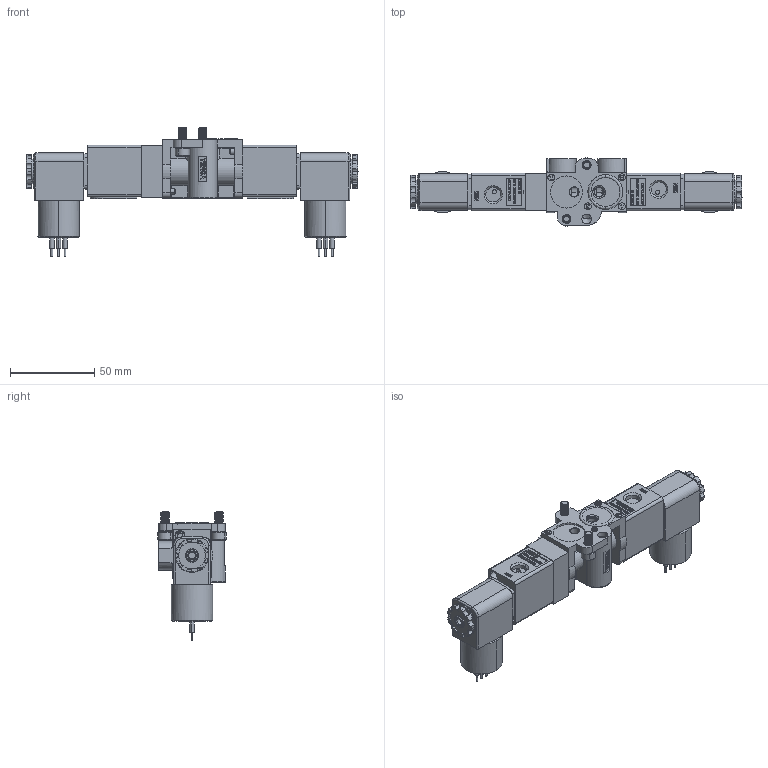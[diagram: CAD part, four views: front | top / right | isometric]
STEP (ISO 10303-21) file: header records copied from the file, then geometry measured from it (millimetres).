
FILE_DESCRIPTION (( 'STEP AP214' ), '1' );
FILE_NAME ('TVC5-X421-4N-XXX.STEP', '2025-05-27T17:26:33', ( '' ), ( '' ), 'SwSTEP 2.0', 'SolidWorks 2023', '' );
FILE_SCHEMA (( 'AUTOMOTIVE_DESIGN' ));
Length unit declared in the file: inch
Products named in the file (1): TVC5-X421-4N-XXX
Bounding box: 197.21 x 40.48 x 76.66 mm (x, y, z)
Volume: 129478.6 mm3; surface area: 62479.4 mm2
Topology: 19 solids, 19 shells, 2877 faces, 7392 edges, 4811 vertices
Faces by surface type: plane 1583, cylinder 663, bspline 417, cone 190, torus 24
Entity records: 117486 total; most frequent: CARTESIAN_POINT 50381, ORIENTED_EDGE 14764, DIRECTION 12331, EDGE_CURVE 7382, VERTEX_POINT 4811, VECTOR 4771, LINE 4771, AXIS2_PLACEMENT_3D 3780
